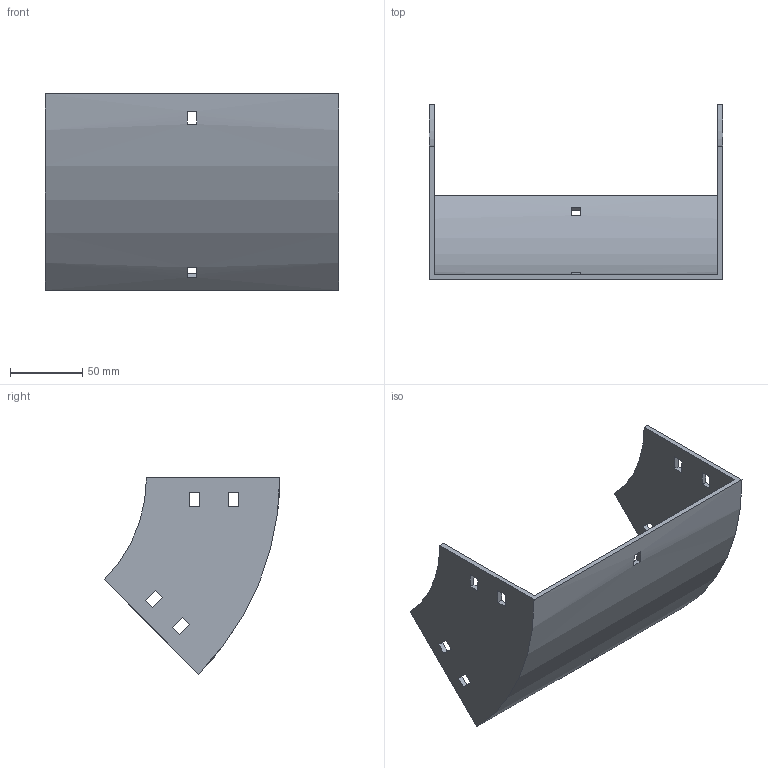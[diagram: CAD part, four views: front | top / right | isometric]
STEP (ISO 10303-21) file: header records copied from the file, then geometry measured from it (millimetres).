
FILE_DESCRIPTION (( 'STEP AP214' ), '1' );
FILE_NAME ('31B1I200.step', '2025-02-21T09:48:11', ( '' ), ( '' ), 'SwSTEP 2.0', 'SolidWorks 2023', '' );
FILE_SCHEMA (( 'AUTOMOTIVE_DESIGN' ));
Length unit declared in the file: millimetre
Products named in the file (1): 31B1I200
Bounding box: 204 x 121.79 x 136.12 mm (x, y, z)
Volume: 175300.9 mm3; surface area: 104575.2 mm2
Topology: 1 solids, 1 shells, 50 faces, 144 edges, 96 vertices
Faces by surface type: plane 46, cylinder 4
Entity records: 1687 total; most frequent: CARTESIAN_POINT 291, ORIENTED_EDGE 288, DIRECTION 262, EDGE_CURVE 144, VECTOR 128, LINE 128, VERTEX_POINT 96, EDGE_LOOP 70
